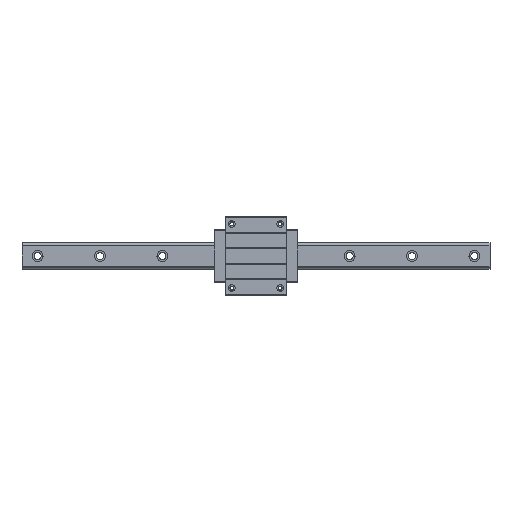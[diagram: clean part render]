
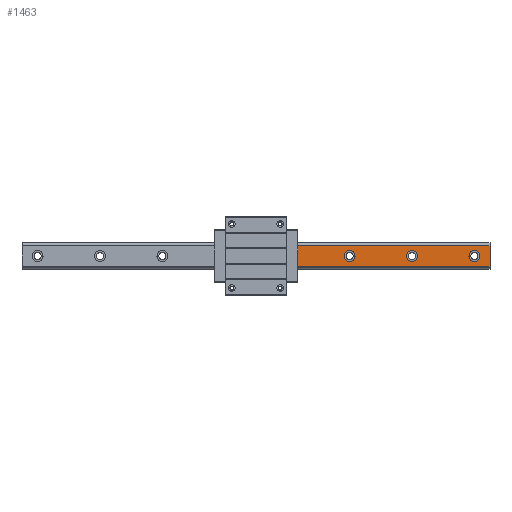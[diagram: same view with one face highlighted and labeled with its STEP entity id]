
A CAD part, top view. The second image highlights one B-rep face of the part: STEP entity #1463.
In plain terms, the highlighted planar face has unit normal (0, 0, 1).
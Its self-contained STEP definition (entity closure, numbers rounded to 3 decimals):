
#31 = CARTESIAN_POINT ( 'NONE',  ( 53.7, -13.408, 26. ) ) ;
#53 = CARTESIAN_POINT ( 'NONE',  ( 200., 0., 26. ) ) ;
#60 = CARTESIAN_POINT ( 'NONE',  ( 300., 13.408, 26. ) ) ;
#228 = DIRECTION ( 'NONE',  ( 1., 0., 0. ) ) ;
#282 = ORIENTED_EDGE ( 'NONE', *, *, #1636, .T. ) ;
#476 = VERTEX_POINT ( 'NONE', #4177 ) ;
#531 = AXIS2_PLACEMENT_3D ( 'NONE', #53, #2058, #4060 ) ;
#551 = DIRECTION ( 'NONE',  ( 0., 1., 0. ) ) ;
#553 = CIRCLE ( 'NONE', #2558, 7. ) ;
#691 = LINE ( 'NONE', #1220, #4539 ) ;
#694 = EDGE_LOOP ( 'NONE', ( #5782, #2053 ) ) ;
#707 = ORIENTED_EDGE ( 'NONE', *, *, #1183, .T. ) ;
#764 = LINE ( 'NONE', #861, #4146 ) ;
#798 = VERTEX_POINT ( 'NONE', #3436 ) ;
#856 = ORIENTED_EDGE ( 'NONE', *, *, #2389, .T. ) ;
#861 = CARTESIAN_POINT ( 'NONE',  ( 300., 13.6, 26. ) ) ;
#884 = DIRECTION ( 'NONE',  ( 0., 0., -1. ) ) ;
#1183 = EDGE_CURVE ( 'NONE', #6391, #2539, #3653, .T. ) ;
#1220 = CARTESIAN_POINT ( 'NONE',  ( 300., -13.408, 26. ) ) ;
#1239 = DIRECTION ( 'NONE',  ( -1., 0., 0. ) ) ;
#1463 = ADVANCED_FACE ( 'NONE', ( #2538, #4010, #4993, #5543 ), #2004, .F. ) ;
#1541 = CARTESIAN_POINT ( 'NONE',  ( 127., 0., 26. ) ) ;
#1636 = EDGE_CURVE ( 'NONE', #2230, #2403, #691, .T. ) ;
#1934 = EDGE_CURVE ( 'NONE', #2230, #476, #4535, .T. ) ;
#1953 = CARTESIAN_POINT ( 'NONE',  ( 53.7, -13.408, 26. ) ) ;
#1954 = AXIS2_PLACEMENT_3D ( 'NONE', #2116, #4476, #5607 ) ;
#2004 = PLANE ( 'NONE',  #1954 ) ;
#2053 = ORIENTED_EDGE ( 'NONE', *, *, #4318, .T. ) ;
#2058 = DIRECTION ( 'NONE',  ( 0., 0., -1. ) ) ;
#2095 = DIRECTION ( 'NONE',  ( 0., 0., -1. ) ) ;
#2114 = CIRCLE ( 'NONE', #3679, 7. ) ;
#2116 = CARTESIAN_POINT ( 'NONE',  ( 300., 0., 26. ) ) ;
#2143 = ORIENTED_EDGE ( 'NONE', *, *, #1934, .F. ) ;
#2230 = VERTEX_POINT ( 'NONE', #1953 ) ;
#2274 = DIRECTION ( 'NONE',  ( -1., 0., 0. ) ) ;
#2389 = EDGE_CURVE ( 'NONE', #5615, #798, #5975, .T. ) ;
#2403 = VERTEX_POINT ( 'NONE', #3271 ) ;
#2491 = LINE ( 'NONE', #60, #6300 ) ;
#2533 = CIRCLE ( 'NONE', #531, 7. ) ;
#2538 = FACE_BOUND ( 'NONE', #4267, .T. ) ;
#2539 = VERTEX_POINT ( 'NONE', #4809 ) ;
#2558 = AXIS2_PLACEMENT_3D ( 'NONE', #6071, #5998, #3980 ) ;
#2620 = AXIS2_PLACEMENT_3D ( 'NONE', #2628, #3740, #1239 ) ;
#2628 = CARTESIAN_POINT ( 'NONE',  ( 120., 0., 26. ) ) ;
#2779 = DIRECTION ( 'NONE',  ( 0., -1., 0. ) ) ;
#2896 = CARTESIAN_POINT ( 'NONE',  ( 300., 13.408, 26. ) ) ;
#3016 = CARTESIAN_POINT ( 'NONE',  ( 273., 0., 26. ) ) ;
#3110 = CARTESIAN_POINT ( 'NONE',  ( 280., 0., 26. ) ) ;
#3142 = DIRECTION ( 'NONE',  ( 0., 0., -1. ) ) ;
#3235 = CARTESIAN_POINT ( 'NONE',  ( 207., 0., 26. ) ) ;
#3271 = CARTESIAN_POINT ( 'NONE',  ( 300., -13.408, 26. ) ) ;
#3436 = CARTESIAN_POINT ( 'NONE',  ( 113., 0., 26. ) ) ;
#3653 = CIRCLE ( 'NONE', #4179, 7. ) ;
#3679 = AXIS2_PLACEMENT_3D ( 'NONE', #4659, #2095, #4713 ) ;
#3740 = DIRECTION ( 'NONE',  ( 0., 0., -1. ) ) ;
#3886 = EDGE_CURVE ( 'NONE', #6264, #476, #2491, .T. ) ;
#3935 = EDGE_LOOP ( 'NONE', ( #5221, #2143, #282, #4192 ) ) ;
#3980 = DIRECTION ( 'NONE',  ( -1., 0., 0. ) ) ;
#4010 = FACE_BOUND ( 'NONE', #694, .T. ) ;
#4019 = ORIENTED_EDGE ( 'NONE', *, *, #5770, .T. ) ;
#4060 = DIRECTION ( 'NONE',  ( -1., 0., 0. ) ) ;
#4146 = VECTOR ( 'NONE', #2779, 1000. ) ;
#4177 = CARTESIAN_POINT ( 'NONE',  ( 53.7, 13.408, 26. ) ) ;
#4179 = AXIS2_PLACEMENT_3D ( 'NONE', #3110, #3142, #2274 ) ;
#4192 = ORIENTED_EDGE ( 'NONE', *, *, #4617, .F. ) ;
#4267 = EDGE_LOOP ( 'NONE', ( #856, #5000 ) ) ;
#4318 = EDGE_CURVE ( 'NONE', #5751, #4499, #2533, .T. ) ;
#4476 = DIRECTION ( 'NONE',  ( 0., 0., -1. ) ) ;
#4477 = EDGE_CURVE ( 'NONE', #4499, #5751, #2114, .T. ) ;
#4499 = VERTEX_POINT ( 'NONE', #3235 ) ;
#4535 = LINE ( 'NONE', #31, #4743 ) ;
#4539 = VECTOR ( 'NONE', #228, 1000. ) ;
#4617 = EDGE_CURVE ( 'NONE', #6264, #2403, #764, .T. ) ;
#4659 = CARTESIAN_POINT ( 'NONE',  ( 200., 0., 26. ) ) ;
#4713 = DIRECTION ( 'NONE',  ( -1., 0., 0. ) ) ;
#4743 = VECTOR ( 'NONE', #551, 1000. ) ;
#4809 = CARTESIAN_POINT ( 'NONE',  ( 287., 0., 26. ) ) ;
#4818 = EDGE_LOOP ( 'NONE', ( #4019, #707 ) ) ;
#4993 = FACE_BOUND ( 'NONE', #4818, .T. ) ;
#5000 = ORIENTED_EDGE ( 'NONE', *, *, #5107, .T. ) ;
#5107 = EDGE_CURVE ( 'NONE', #798, #5615, #6446, .T. ) ;
#5221 = ORIENTED_EDGE ( 'NONE', *, *, #3886, .T. ) ;
#5456 = DIRECTION ( 'NONE',  ( -1., 0., 0. ) ) ;
#5543 = FACE_OUTER_BOUND ( 'NONE', #3935, .T. ) ;
#5607 = DIRECTION ( 'NONE',  ( 0., -1., 0. ) ) ;
#5615 = VERTEX_POINT ( 'NONE', #1541 ) ;
#5725 = AXIS2_PLACEMENT_3D ( 'NONE', #6023, #884, #5920 ) ;
#5751 = VERTEX_POINT ( 'NONE', #5870 ) ;
#5770 = EDGE_CURVE ( 'NONE', #2539, #6391, #553, .T. ) ;
#5782 = ORIENTED_EDGE ( 'NONE', *, *, #4477, .T. ) ;
#5870 = CARTESIAN_POINT ( 'NONE',  ( 193., 0., 26. ) ) ;
#5920 = DIRECTION ( 'NONE',  ( -1., 0., 0. ) ) ;
#5975 = CIRCLE ( 'NONE', #2620, 7. ) ;
#5998 = DIRECTION ( 'NONE',  ( 0., 0., -1. ) ) ;
#6023 = CARTESIAN_POINT ( 'NONE',  ( 120., 0., 26. ) ) ;
#6071 = CARTESIAN_POINT ( 'NONE',  ( 280., 0., 26. ) ) ;
#6264 = VERTEX_POINT ( 'NONE', #2896 ) ;
#6300 = VECTOR ( 'NONE', #5456, 1000. ) ;
#6391 = VERTEX_POINT ( 'NONE', #3016 ) ;
#6446 = CIRCLE ( 'NONE', #5725, 7. ) ;
